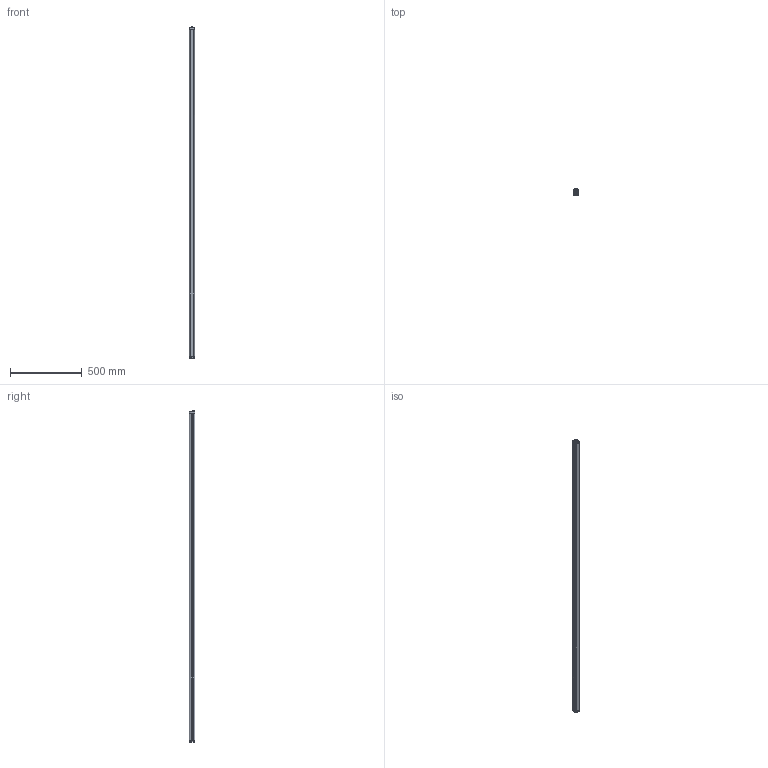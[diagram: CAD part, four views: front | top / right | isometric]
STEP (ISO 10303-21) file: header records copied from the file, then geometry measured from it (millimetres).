
FILE_DESCRIPTION(/* description */ (''),/* implementation_level */ '2;1');
FILE_NAME(/* name */ 'DSD-1025 DS2-05-07-225-JE _TX_STP.stp',/* time_stamp */ '2020-07-21T16:53:58+02:00',/* author */ (''),/* organization */ (''),/* preprocessor_version */ 'ST-DEVELOPER v16.7',/* originating_system */ 'SIEMENS PLM Software NX 12.0',/* authorisation */ '');
FILE_SCHEMA (('AUTOMOTIVE_DESIGN { 1 0 10303 214 3 1 1 1 }'));
Products named in the file (1): fgut3274CB3Etkcq
Bounding box: 35 x 40.1 x 2314.3 mm (x, y, z)
Surface area: 452909.4 mm2
Topology: 1 solids, 4 shells, 1270 faces, 3227 edges, 1954 vertices
Faces by surface type: plane 469, cylinder 444, bspline 171, cone 106, sphere 56, torus 24
Full cylindrical faces by diameter (mm): 1 x4, 2 x2, 2.4 x4, 2.6 x8, 3 x1, 3.7 x8, 3.8 x2, 4.2 x1, 5 x8, 6 x1, 6.8 x1, 8.3 x1, 10.4 x1, 10.55 x1, 12 x11, 14 x1, 14.5 x1
Entity records: 49574 total; most frequent: CARTESIAN_POINT 14284, ORIENTED_EDGE 6178, DIRECTION 5381, EDGE_CURVE 3089, AXIS2_PLACEMENT_3D 2099, VERTEX_POINT 1939, EDGE_LOOP 1382, ADVANCED_FACE 1262
